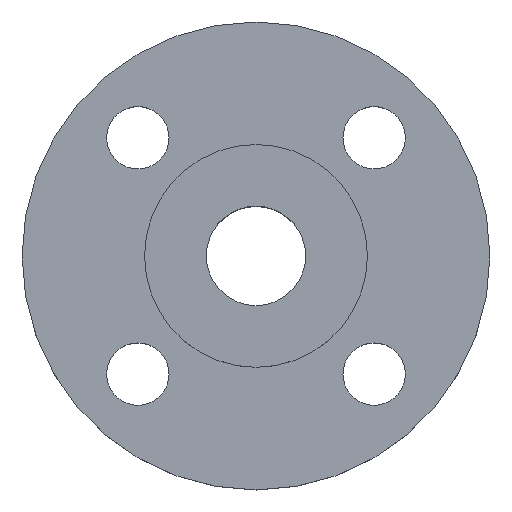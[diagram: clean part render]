
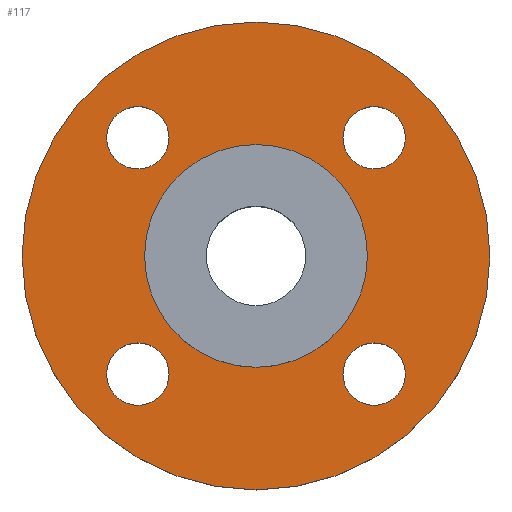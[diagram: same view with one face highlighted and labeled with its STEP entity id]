
A CAD part, top view. The second image highlights one B-rep face of the part: STEP entity #117.
In plain terms, the highlighted planar face has unit normal (0, 0, 1).
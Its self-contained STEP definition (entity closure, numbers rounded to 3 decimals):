
#1 = DIRECTION ( 'NONE',  ( 0., 0., -1. ) ) ;
#5 = AXIS2_PLACEMENT_3D ( 'NONE', #801, #800, #798 ) ;
#13 = EDGE_CURVE ( 'NONE', #279, #449, #491, .T. ) ;
#15 = DIRECTION ( 'NONE',  ( 1., 0., 0. ) ) ;
#16 = EDGE_CURVE ( 'NONE', #163, #257, #160, .T. ) ;
#30 = CARTESIAN_POINT ( 'NONE',  ( 26.517, 26.517, -4.5 ) ) ;
#37 = DIRECTION ( 'NONE',  ( 0., 0., -1. ) ) ;
#41 = DIRECTION ( 'NONE',  ( 1., 0., 0. ) ) ;
#43 = CARTESIAN_POINT ( 'NONE',  ( -26.517, -26.517, -4.5 ) ) ;
#82 = EDGE_CURVE ( 'NONE', #449, #279, #475, .T. ) ;
#87 = EDGE_CURVE ( 'NONE', #165, #255, #824, .T. ) ;
#101 = CARTESIAN_POINT ( 'NONE',  ( -19.517, 26.517, -4.5 ) ) ;
#107 = AXIS2_PLACEMENT_3D ( 'NONE', #43, #1, #15 ) ;
#109 = CARTESIAN_POINT ( 'NONE',  ( 33.517, -26.517, -4.5 ) ) ;
#115 = EDGE_CURVE ( 'NONE', #298, #463, #642, .T. ) ;
#116 = CARTESIAN_POINT ( 'NONE',  ( -26.517, -26.517, -4.5 ) ) ;
#117 = ADVANCED_FACE ( 'NONE', ( #561, #562, #564, #575, #574, #573 ), #583, .T. ) ;
#120 = DIRECTION ( 'NONE',  ( 1., 0., 0. ) ) ;
#123 = AXIS2_PLACEMENT_3D ( 'NONE', #390, #408, #409 ) ;
#124 = EDGE_LOOP ( 'NONE', ( #152, #153 ) ) ;
#131 = AXIS2_PLACEMENT_3D ( 'NONE', #558, #559, #560 ) ;
#138 = DIRECTION ( 'NONE',  ( 0., 0., -1. ) ) ;
#151 = EDGE_CURVE ( 'NONE', #281, #296, #625, .T. ) ;
#152 = ORIENTED_EDGE ( 'NONE', *, *, #82, .T. ) ;
#153 = ORIENTED_EDGE ( 'NONE', *, *, #13, .T. ) ;
#154 = ORIENTED_EDGE ( 'NONE', *, *, #204, .T. ) ;
#155 = ORIENTED_EDGE ( 'NONE', *, *, #407, .T. ) ;
#156 = ORIENTED_EDGE ( 'NONE', *, *, #402, .T. ) ;
#157 = AXIS2_PLACEMENT_3D ( 'NONE', #389, #392, #393 ) ;
#160 = CIRCLE ( 'NONE', #781, 52.5 ) ;
#161 = ORIENTED_EDGE ( 'NONE', *, *, #115, .T. ) ;
#163 = VERTEX_POINT ( 'NONE', #413 ) ;
#165 = VERTEX_POINT ( 'NONE', #424 ) ;
#167 = CIRCLE ( 'NONE', #577, 7. ) ;
#178 = CARTESIAN_POINT ( 'NONE',  ( -19.517, -26.517, -4.5 ) ) ;
#187 = AXIS2_PLACEMENT_3D ( 'NONE', #331, #337, #339 ) ;
#195 = DIRECTION ( 'NONE',  ( 1., 0., 0. ) ) ;
#197 = DIRECTION ( 'NONE',  ( 0., 0., -1. ) ) ;
#201 = ORIENTED_EDGE ( 'NONE', *, *, #87, .T. ) ;
#202 = ORIENTED_EDGE ( 'NONE', *, *, #205, .T. ) ;
#203 = ORIENTED_EDGE ( 'NONE', *, *, #151, .T. ) ;
#204 = EDGE_CURVE ( 'NONE', #274, #256, #608, .T. ) ;
#205 = EDGE_CURVE ( 'NONE', #255, #165, #487, .T. ) ;
#207 = ORIENTED_EDGE ( 'NONE', *, *, #287, .T. ) ;
#209 = ORIENTED_EDGE ( 'NONE', *, *, #542, .F. ) ;
#211 = ORIENTED_EDGE ( 'NONE', *, *, #16, .F. ) ;
#249 = CIRCLE ( 'NONE', #377, 25. ) ;
#254 = EDGE_LOOP ( 'NONE', ( #201, #202 ) ) ;
#255 = VERTEX_POINT ( 'NONE', #401 ) ;
#256 = VERTEX_POINT ( 'NONE', #361 ) ;
#257 = VERTEX_POINT ( 'NONE', #395 ) ;
#258 = EDGE_LOOP ( 'NONE', ( #209, #211 ) ) ;
#263 = EDGE_LOOP ( 'NONE', ( #203, #207 ) ) ;
#274 = VERTEX_POINT ( 'NONE', #178 ) ;
#279 = VERTEX_POINT ( 'NONE', #341 ) ;
#281 = VERTEX_POINT ( 'NONE', #338 ) ;
#287 = EDGE_CURVE ( 'NONE', #296, #281, #249, .T. ) ;
#294 = EDGE_LOOP ( 'NONE', ( #156, #161 ) ) ;
#296 = VERTEX_POINT ( 'NONE', #333 ) ;
#298 = VERTEX_POINT ( 'NONE', #309 ) ;
#309 = CARTESIAN_POINT ( 'NONE',  ( -33.517, 26.517, -4.5 ) ) ;
#319 = AXIS2_PLACEMENT_3D ( 'NONE', #343, #344, #195 ) ;
#331 = CARTESIAN_POINT ( 'NONE',  ( 26.517, -26.517, -4.5 ) ) ;
#333 = CARTESIAN_POINT ( 'NONE',  ( 25., 0., -4.5 ) ) ;
#337 = DIRECTION ( 'NONE',  ( 0., 0., -1. ) ) ;
#338 = CARTESIAN_POINT ( 'NONE',  ( -25., 0., -4.5 ) ) ;
#339 = DIRECTION ( 'NONE',  ( 1., 0., 0. ) ) ;
#340 = DIRECTION ( 'NONE',  ( -1., 0., 0. ) ) ;
#341 = CARTESIAN_POINT ( 'NONE',  ( 19.517, -26.517, -4.5 ) ) ;
#342 = CARTESIAN_POINT ( 'NONE',  ( 0., 0., -4.5 ) ) ;
#343 = CARTESIAN_POINT ( 'NONE',  ( -26.517, 26.517, -4.5 ) ) ;
#344 = DIRECTION ( 'NONE',  ( 0., 0., -1. ) ) ;
#345 = CARTESIAN_POINT ( 'NONE',  ( 0., 0., -4.5 ) ) ;
#350 = DIRECTION ( 'NONE',  ( 0., 0., -1. ) ) ;
#352 = DIRECTION ( 'NONE',  ( -1., 0., 0. ) ) ;
#361 = CARTESIAN_POINT ( 'NONE',  ( -33.517, -26.517, -4.5 ) ) ;
#377 = AXIS2_PLACEMENT_3D ( 'NONE', #342, #197, #340 ) ;
#389 = CARTESIAN_POINT ( 'NONE',  ( 26.517, -26.517, -4.5 ) ) ;
#390 = CARTESIAN_POINT ( 'NONE',  ( 0., 0., -4.5 ) ) ;
#392 = DIRECTION ( 'NONE',  ( 0., 0., -1. ) ) ;
#393 = DIRECTION ( 'NONE',  ( 1., 0., 0. ) ) ;
#394 = CARTESIAN_POINT ( 'NONE',  ( 26.517, 26.517, -4.5 ) ) ;
#395 = CARTESIAN_POINT ( 'NONE',  ( 52.5, 0., -4.5 ) ) ;
#396 = DIRECTION ( 'NONE',  ( 0., 0., -1. ) ) ;
#397 = DIRECTION ( 'NONE',  ( 1., 0., 0. ) ) ;
#401 = CARTESIAN_POINT ( 'NONE',  ( 19.517, 26.517, -4.5 ) ) ;
#402 = EDGE_CURVE ( 'NONE', #463, #298, #819, .T. ) ;
#404 = AXIS2_PLACEMENT_3D ( 'NONE', #394, #396, #397 ) ;
#407 = EDGE_CURVE ( 'NONE', #256, #274, #167, .T. ) ;
#408 = DIRECTION ( 'NONE',  ( 0., 0., -1. ) ) ;
#409 = DIRECTION ( 'NONE',  ( -1., 0., 0. ) ) ;
#413 = CARTESIAN_POINT ( 'NONE',  ( -52.5, 0., -4.5 ) ) ;
#424 = CARTESIAN_POINT ( 'NONE',  ( 33.517, 26.517, -4.5 ) ) ;
#449 = VERTEX_POINT ( 'NONE', #109 ) ;
#463 = VERTEX_POINT ( 'NONE', #101 ) ;
#475 = CIRCLE ( 'NONE', #157, 7. ) ;
#487 = CIRCLE ( 'NONE', #823, 7. ) ;
#491 = CIRCLE ( 'NONE', #187, 7. ) ;
#503 = CIRCLE ( 'NONE', #5, 52.5 ) ;
#512 = EDGE_LOOP ( 'NONE', ( #154, #155 ) ) ;
#517 = AXIS2_PLACEMENT_3D ( 'NONE', #582, #578, #586 ) ;
#542 = EDGE_CURVE ( 'NONE', #257, #163, #503, .T. ) ;
#558 = CARTESIAN_POINT ( 'NONE',  ( -26.517, 26.517, -4.5 ) ) ;
#559 = DIRECTION ( 'NONE',  ( 0., 0., -1. ) ) ;
#560 = DIRECTION ( 'NONE',  ( 1., 0., 0. ) ) ;
#561 = FACE_BOUND ( 'NONE', #124, .T. ) ;
#562 = FACE_BOUND ( 'NONE', #512, .T. ) ;
#564 = FACE_BOUND ( 'NONE', #294, .T. ) ;
#573 = FACE_OUTER_BOUND ( 'NONE', #258, .T. ) ;
#574 = FACE_BOUND ( 'NONE', #263, .T. ) ;
#575 = FACE_BOUND ( 'NONE', #254, .T. ) ;
#577 = AXIS2_PLACEMENT_3D ( 'NONE', #116, #138, #120 ) ;
#578 = DIRECTION ( 'NONE',  ( 0., 0., 1. ) ) ;
#582 = CARTESIAN_POINT ( 'NONE',  ( 25., 0., -4.5 ) ) ;
#583 = PLANE ( 'NONE',  #517 ) ;
#586 = DIRECTION ( 'NONE',  ( 1., 0., 0. ) ) ;
#608 = CIRCLE ( 'NONE', #107, 7. ) ;
#625 = CIRCLE ( 'NONE', #123, 25. ) ;
#642 = CIRCLE ( 'NONE', #131, 7. ) ;
#781 = AXIS2_PLACEMENT_3D ( 'NONE', #345, #350, #352 ) ;
#798 = DIRECTION ( 'NONE',  ( -1., 0., 0. ) ) ;
#800 = DIRECTION ( 'NONE',  ( 0., 0., -1. ) ) ;
#801 = CARTESIAN_POINT ( 'NONE',  ( 0., 0., -4.5 ) ) ;
#819 = CIRCLE ( 'NONE', #319, 7. ) ;
#823 = AXIS2_PLACEMENT_3D ( 'NONE', #30, #37, #41 ) ;
#824 = CIRCLE ( 'NONE', #404, 7. ) ;
